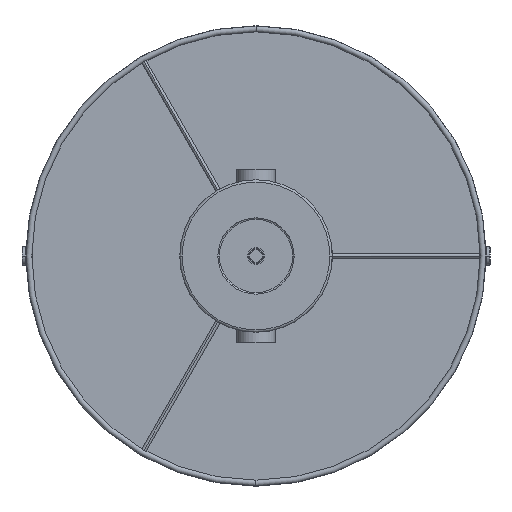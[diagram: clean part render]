
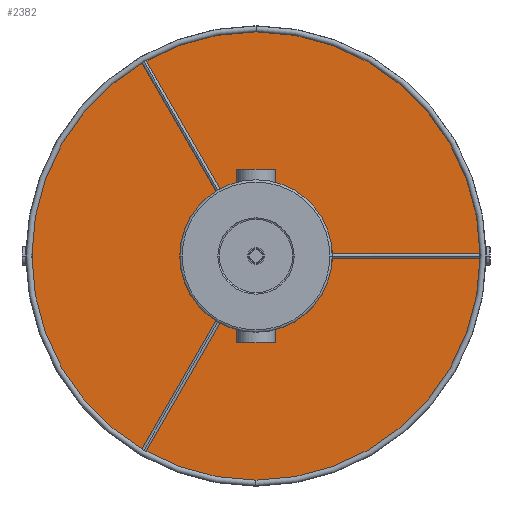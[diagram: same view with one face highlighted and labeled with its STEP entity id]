
A CAD part, front view. The second image highlights one B-rep face of the part: STEP entity #2382.
In plain terms, the highlighted planar face has unit normal (0, -1, 0).
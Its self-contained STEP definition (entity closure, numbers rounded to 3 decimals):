
#135 = EDGE_LOOP ( 'NONE', ( #260, #7980 ) ) ;
#260 = ORIENTED_EDGE ( 'NONE', *, *, #7466, .F. ) ;
#631 = EDGE_CURVE ( 'NONE', #8086, #7642, #2004, .T. ) ;
#688 = FACE_OUTER_BOUND ( 'NONE', #135, .T. ) ;
#925 = EDGE_LOOP ( 'NONE', ( #6794, #6457 ) ) ;
#988 = DIRECTION ( 'NONE',  ( 0., -1., 0. ) ) ;
#1783 = CARTESIAN_POINT ( 'NONE',  ( 0., 119., 0. ) ) ;
#1899 = DIRECTION ( 'NONE',  ( 1., 0., 0. ) ) ;
#2004 = CIRCLE ( 'NONE', #4719, 150. ) ;
#2382 = ADVANCED_FACE ( 'NONE', ( #8250, #688 ), #5966, .F. ) ;
#2609 = CARTESIAN_POINT ( 'NONE',  ( 150., 119., 0. ) ) ;
#2639 = DIRECTION ( 'NONE',  ( 0., -1., 0. ) ) ;
#3104 = CIRCLE ( 'NONE', #3809, 20. ) ;
#3242 = CIRCLE ( 'NONE', #4379, 20. ) ;
#3273 = CARTESIAN_POINT ( 'NONE',  ( 0., 119., 0. ) ) ;
#3510 = DIRECTION ( 'NONE',  ( 0., 1., 0. ) ) ;
#3632 = DIRECTION ( 'NONE',  ( 0., 0., 1. ) ) ;
#3809 = AXIS2_PLACEMENT_3D ( 'NONE', #4307, #988, #3632 ) ;
#3961 = EDGE_CURVE ( 'NONE', #7914, #7488, #3242, .T. ) ;
#3997 = DIRECTION ( 'NONE',  ( 0., 1., 0. ) ) ;
#4307 = CARTESIAN_POINT ( 'NONE',  ( 0., 119., 0. ) ) ;
#4346 = CARTESIAN_POINT ( 'NONE',  ( 0., 119., -20. ) ) ;
#4379 = AXIS2_PLACEMENT_3D ( 'NONE', #8712, #2639, #5956 ) ;
#4719 = AXIS2_PLACEMENT_3D ( 'NONE', #6434, #3510, #5007 ) ;
#5007 = DIRECTION ( 'NONE',  ( 1., 0., 0. ) ) ;
#5956 = DIRECTION ( 'NONE',  ( 0., 0., -1. ) ) ;
#5966 = PLANE ( 'NONE',  #8831 ) ;
#6160 = CARTESIAN_POINT ( 'NONE',  ( -150., 119., 0. ) ) ;
#6164 = DIRECTION ( 'NONE',  ( 0., 1., 0. ) ) ;
#6434 = CARTESIAN_POINT ( 'NONE',  ( 0., 119., 0. ) ) ;
#6457 = ORIENTED_EDGE ( 'NONE', *, *, #6612, .F. ) ;
#6612 = EDGE_CURVE ( 'NONE', #7488, #7914, #3104, .T. ) ;
#6747 = DIRECTION ( 'NONE',  ( -1., 0., 0. ) ) ;
#6794 = ORIENTED_EDGE ( 'NONE', *, *, #3961, .F. ) ;
#7466 = EDGE_CURVE ( 'NONE', #7642, #8086, #7485, .T. ) ;
#7485 = CIRCLE ( 'NONE', #7923, 150. ) ;
#7488 = VERTEX_POINT ( 'NONE', #8032 ) ;
#7642 = VERTEX_POINT ( 'NONE', #6160 ) ;
#7914 = VERTEX_POINT ( 'NONE', #4346 ) ;
#7923 = AXIS2_PLACEMENT_3D ( 'NONE', #1783, #3997, #6747 ) ;
#7980 = ORIENTED_EDGE ( 'NONE', *, *, #631, .F. ) ;
#8032 = CARTESIAN_POINT ( 'NONE',  ( 0., 119., 20. ) ) ;
#8086 = VERTEX_POINT ( 'NONE', #2609 ) ;
#8250 = FACE_BOUND ( 'NONE', #925, .T. ) ;
#8712 = CARTESIAN_POINT ( 'NONE',  ( 0., 119., 0. ) ) ;
#8831 = AXIS2_PLACEMENT_3D ( 'NONE', #3273, #6164, #1899 ) ;
